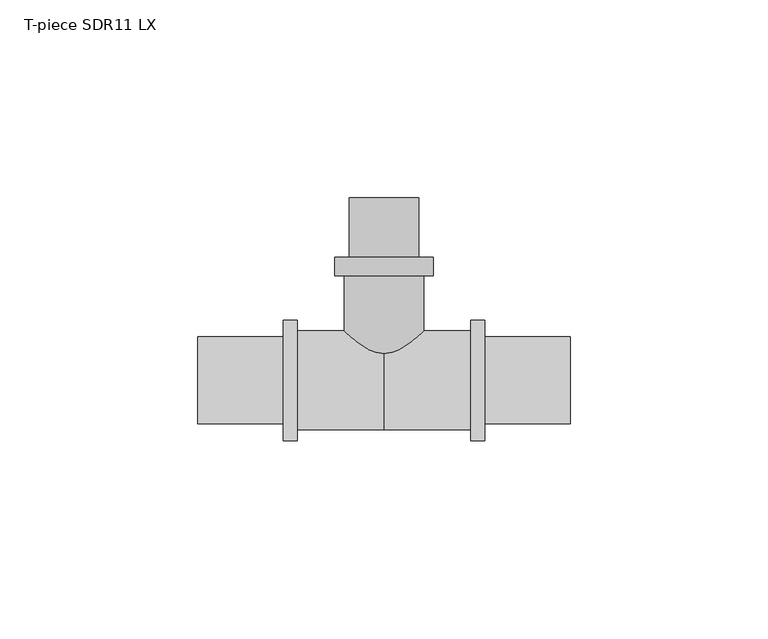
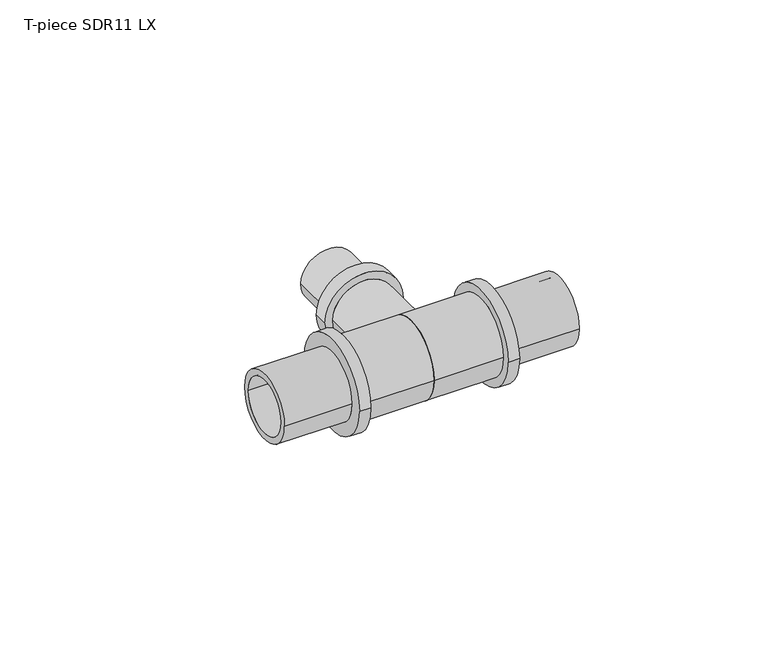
"""IFC4 building model written with IfcOpenShell, lengths in millimetres: pipe fitting geometry, T-piece SDR11 LX : T-piece LX SDR11 LX."""

from ifc_helpers import new_model, si_unit, point, frame, origin, place, context, project, spatial, polyline, circle_curve, ellipse_curve, trimmed, source, transform, mapped, element, save
from ifc_brep_helpers import plane_surface, cylinder_surface, revolved_surface, advanced_brep


def t_piece_sdr11_lx_df0b7dc8(model_context):
    return source(origin(), model_context, "Body", "AdvancedBrep", [
        advanced_brep(
        [(10.0, 1.917756, 0.0), (-10.0, 1.917756, 0.0), (-10.0, 26.4, 0.0), (10.0, 26.4, 0.0), (6.8, 46.1, 0.0), (-6.8, 46.1, 0.0), (-6.8, 0.0, 0.0), (6.8, 0.0, 0.0), (8.8, 31.1, 0.0), (-8.8, 31.1, 0.0), (-8.8, 46.1, 0.0), (8.8, 46.1, 0.0), (12.5, 26.4, 0.0), (-12.5, 26.4, 0.0), (-12.5, 31.1, 0.0), (12.5, 31.1, 0.0)],
        [
            (0, 1, circle_curve(frame((0.0, 1.917756, 0.0), z_axis=(0.0, 1.0, 0.0), x_axis=(-1.0, 0.0, 0.0)), 10.0)),
            (1, 2),
            (2, 3, circle_curve(frame((0.0, 26.4, 0.0), z_axis=(0.0, -1.0, 0.0), x_axis=(-1.0, 0.0, 0.0)), 10.0)),
            (3, 0),
            (4, 5, circle_curve(frame((0.0, 46.1, 0.0), z_axis=(0.0, 1.0, 0.0), x_axis=(-1.0, 0.0, 0.0)), 6.8)),
            (5, 6),
            (6, 7, circle_curve(frame((0.0, 0.0, 0.0), z_axis=(0.0, -1.0, 0.0), x_axis=(-1.0, 0.0, 0.0)), 6.8)),
            (7, 4),
            (8, 9, circle_curve(frame((0.0, 31.1, 0.0), z_axis=(0.0, 1.0, 0.0), x_axis=(-1.0, 0.0, 0.0)), 8.8)),
            (9, 10),
            (10, 11, circle_curve(frame((0.0, 46.1, 0.0), z_axis=(0.0, -1.0, 0.0), x_axis=(-1.0, 0.0, 0.0)), 8.8)),
            (11, 8),
            (12, 13, circle_curve(frame((0.0, 26.4, 0.0), z_axis=(0.0, 1.0, 0.0), x_axis=(-1.0, 0.0, 0.0)), 12.5)),
            (13, 14),
            (14, 15, circle_curve(frame((0.0, 31.1, 0.0), z_axis=(0.0, -1.0, 0.0), x_axis=(-1.0, 0.0, 0.0)), 12.5)),
            (15, 12),
            (12, 13, circle_curve(frame((0.0, 26.4, 0.0), z_axis=(0.0, -1.0, 0.0), x_axis=(1.0, 0.0, 0.0)), 12.5)),
            (2, 3, circle_curve(frame((0.0, 26.4, 0.0), z_axis=(0.0, 1.0, 0.0), x_axis=(1.0, 0.0, 0.0)), 10.0)),
            (1, 0, circle_curve(frame((0.0, 1.917756, 0.0), z_axis=(0.0, 1.0, 0.0), x_axis=(1.0, 0.0, 0.0)), 10.0)),
            (5, 4, circle_curve(frame((0.0, 46.1, 0.0), z_axis=(0.0, 1.0, 0.0), x_axis=(1.0, 0.0, 0.0)), 6.8)),
            (7, 6, circle_curve(frame((0.0, 0.0, 0.0), z_axis=(0.0, -1.0, 0.0), x_axis=(1.0, 0.0, 0.0)), 6.8)),
            (10, 11, circle_curve(frame((0.0, 46.1, 0.0), z_axis=(0.0, 1.0, 0.0), x_axis=(1.0, 0.0, 0.0)), 8.8)),
            (9, 8, circle_curve(frame((0.0, 31.1, 0.0), z_axis=(0.0, 1.0, 0.0), x_axis=(1.0, 0.0, 0.0)), 8.8)),
            (14, 15, circle_curve(frame((0.0, 31.1, 0.0), z_axis=(0.0, 1.0, 0.0), x_axis=(1.0, 0.0, 0.0)), 12.5)),
            (6, 1, circle_curve(frame((-2.0462802, 11.5608022, 0.0), z_axis=(0.0, 0.0, -1.0), x_axis=(0.0, -1.0, 0.0)), 12.5)),
            (0, 7, circle_curve(frame((2.0462802, 11.5608022, 0.0), z_axis=(0.0, 0.0, -1.0), x_axis=(0.0, -1.0, 0.0)), 12.5)),
        ],
        [
            cylinder_surface(frame((0.0, 0.0, 0.0), z_axis=(0.0, -1.0, 0.0), x_axis=(-1.0, 0.0, 0.0)), 10.0),
            revolved_surface(polyline([(-6.8, 0.0, 0.0), (-6.8, 46.1, 0.0)]), (0.0, 0.0, 0.0), (0.0, -1.0, 0.0)),
            cylinder_surface(frame((0.0, 0.0, 0.0), z_axis=(0.0, -1.0, 0.0), x_axis=(-1.0, 0.0, 0.0)), 8.8),
            cylinder_surface(frame((0.0, 0.0, 0.0), z_axis=(0.0, -1.0, 0.0), x_axis=(-1.0, 0.0, 0.0)), 12.5),
            plane_surface(frame((0.0, 26.4, 0.0), z_axis=(0.0, -1.0, 0.0), x_axis=(1.0, 0.0, 0.0))),
            cylinder_surface(frame((0.0, 0.0, 0.0), z_axis=(0.0, -1.0, 0.0), x_axis=(1.0, 0.0, 0.0)), 10.0),
            revolved_surface(polyline([(6.8, 0.0, 0.0), (6.8, 46.1, 0.0)]), (0.0, 0.0, 0.0), (0.0, -1.0, 0.0)),
            plane_surface(frame((0.0, 46.1, 0.0), z_axis=(0.0, 1.0, 0.0), x_axis=(1.0, 0.0, 0.0))),
            cylinder_surface(frame((0.0, 0.0, 0.0), z_axis=(0.0, -1.0, 0.0), x_axis=(1.0, 0.0, 0.0)), 8.8),
            plane_surface(frame((0.0, 31.1, 0.0), z_axis=(0.0, 1.0, 0.0), x_axis=(1.0, 0.0, 0.0))),
            cylinder_surface(frame((0.0, 0.0, 0.0), z_axis=(0.0, -1.0, 0.0), x_axis=(1.0, 0.0, 0.0)), 12.5),
            revolved_surface(trimmed(ellipse_curve(frame((-2.0462802, 11.5608022, 0.0), z_axis=(0.0, 0.0, 1.0), x_axis=(0.0, -1.0, 0.0)), 12.5, 12.5), [point((-10.0, 1.917756, 0.0))], [point((-6.8, 0.0, 0.0))], True, "CARTESIAN"), (0.0, 0.0, 0.0), (0.0, -1.0, 0.0)),
            revolved_surface(trimmed(ellipse_curve(frame((2.0462802, 11.5608022, 0.0), z_axis=(0.0, 0.0, -1.0), x_axis=(0.0, -1.0, 0.0)), 12.5, 12.5), [point((10.0, 1.917756, 0.0))], [point((6.8, 0.0, 0.0))], True, "CARTESIAN"), (0.0, 0.0, 0.0), (0.0, -1.0, 0.0)),
        ],
        [
            (0, [[1, 2, 3, 4]]),
            (1, [[5, 6, 7, 8]]),
            (2, [[9, 10, 11, 12]]),
            (3, [[13, 14, 15, 16]]),
            (4, [[17, -13], [18, -3]]),
            (5, [[19, -4, -18, -2]]),
            (6, [[20, -8, 21, -6]]),
            (7, [[22, -11], [-20, -5]]),
            (8, [[23, -12, -22, -10]]),
            (9, [[24, -15], [-23, -9]]),
            (10, [[-17, -16, -24, -14]]),
            (11, [[-7, 25, -1, 26]]),
            (12, [[-21, -26, -19, -25]]),
        ],
    ),
        advanced_brep(
        [(21.9, 12.5, 0.0), (21.9, -12.5, 0.0), (0.0, -12.5, 0.0), (0.0, 12.5, 0.0), (0.0, 8.9, 0.0), (0.0, -8.9, 0.0), (47.0, -8.9, 0.0), (47.0, 8.9, 0.0), (47.0, 11.0, 0.0), (47.0, -11.0, 0.0), (25.5, -11.0, 0.0), (25.5, 11.0, 0.0), (25.5, 15.25, 0.0), (25.5, -15.25, 0.0), (21.9, -15.25, 0.0), (21.9, 15.25, 0.0)],
        [
            (0, 1, circle_curve(frame((21.9, 0.0, 0.0), z_axis=(-1.0, 0.0, 0.0), x_axis=(0.0, -1.0, 0.0)), 12.5)),
            (1, 2),
            (2, 3, circle_curve(frame((0.0, 0.0, 0.0), z_axis=(1.0, 0.0, 0.0), x_axis=(0.0, -1.0, 0.0)), 12.5)),
            (3, 0),
            (4, 5, circle_curve(frame((0.0, 0.0, 0.0), z_axis=(-1.0, 0.0, 0.0), x_axis=(0.0, -1.0, 0.0)), 8.9)),
            (5, 6),
            (6, 7, circle_curve(frame((47.0, 0.0, 0.0), z_axis=(1.0, 0.0, 0.0), x_axis=(0.0, -1.0, 0.0)), 8.9)),
            (7, 4),
            (8, 9, circle_curve(frame((47.0, 0.0, 0.0), z_axis=(-1.0, 0.0, 0.0), x_axis=(0.0, -1.0, 0.0)), 11.0)),
            (9, 10),
            (10, 11, circle_curve(frame((25.5, 0.0, 0.0), z_axis=(1.0, 0.0, 0.0), x_axis=(0.0, -1.0, 0.0)), 11.0)),
            (11, 8),
            (12, 13, circle_curve(frame((25.5, 0.0, 0.0), z_axis=(-1.0, 0.0, 0.0), x_axis=(0.0, -1.0, 0.0)), 15.25)),
            (13, 14),
            (14, 15, circle_curve(frame((21.9, 0.0, 0.0), z_axis=(1.0, 0.0, 0.0), x_axis=(0.0, -1.0, 0.0)), 15.25)),
            (15, 12),
            (14, 15, circle_curve(frame((21.9, 0.0, 0.0), z_axis=(-1.0, 0.0, 0.0), x_axis=(0.0, 1.0, 0.0)), 15.25)),
            (0, 1, circle_curve(frame((21.9, 0.0, 0.0), z_axis=(1.0, 0.0, 0.0), x_axis=(0.0, 1.0, 0.0)), 12.5)),
            (3, 2, circle_curve(frame((0.0, 0.0, 0.0), z_axis=(1.0, 0.0, 0.0), x_axis=(0.0, 1.0, 0.0)), 12.5)),
            (4, 5, circle_curve(frame((0.0, 0.0, 0.0), z_axis=(1.0, 0.0, 0.0), x_axis=(0.0, 1.0, 0.0)), 8.9)),
            (7, 6, circle_curve(frame((47.0, 0.0, 0.0), z_axis=(1.0, 0.0, 0.0), x_axis=(0.0, 1.0, 0.0)), 8.9)),
            (8, 9, circle_curve(frame((47.0, 0.0, 0.0), z_axis=(1.0, 0.0, 0.0), x_axis=(0.0, 1.0, 0.0)), 11.0)),
            (11, 10, circle_curve(frame((25.5, 0.0, 0.0), z_axis=(1.0, 0.0, 0.0), x_axis=(0.0, 1.0, 0.0)), 11.0)),
            (12, 13, circle_curve(frame((25.5, 0.0, 0.0), z_axis=(1.0, 0.0, 0.0), x_axis=(0.0, 1.0, 0.0)), 15.25)),
        ],
        [
            cylinder_surface(frame((0.0, 0.0, 0.0), z_axis=(1.0, 0.0, 0.0), x_axis=(0.0, -1.0, 0.0)), 12.5),
            revolved_surface(polyline([(47.0, -8.9, 0.0), (0.0, -8.9, 0.0)]), (0.0, 0.0, 0.0), (1.0, 0.0, 0.0)),
            cylinder_surface(frame((0.0, 0.0, 0.0), z_axis=(1.0, 0.0, 0.0), x_axis=(0.0, -1.0, 0.0)), 11.0),
            cylinder_surface(frame((0.0, 0.0, 0.0), z_axis=(1.0, 0.0, 0.0), x_axis=(0.0, -1.0, 0.0)), 15.25),
            plane_surface(frame((21.9, 0.0, 0.0), z_axis=(-1.0, 0.0, 0.0), x_axis=(0.0, 1.0, 0.0))),
            cylinder_surface(frame((0.0, 0.0, 0.0), z_axis=(1.0, 0.0, 0.0), x_axis=(0.0, 1.0, 0.0)), 12.5),
            plane_surface(frame((0.0, 0.0, 0.0), z_axis=(-1.0, 0.0, 0.0), x_axis=(0.0, 1.0, 0.0))),
            revolved_surface(polyline([(47.0, 8.9, 0.0), (0.0, 8.9, 0.0)]), (0.0, 0.0, 0.0), (1.0, 0.0, 0.0)),
            plane_surface(frame((47.0, 0.0, 0.0), z_axis=(1.0, 0.0, 0.0), x_axis=(0.0, 1.0, 0.0))),
            cylinder_surface(frame((0.0, 0.0, 0.0), z_axis=(1.0, 0.0, 0.0), x_axis=(0.0, 1.0, 0.0)), 11.0),
            plane_surface(frame((25.5, 0.0, 0.0), z_axis=(1.0, 0.0, 0.0), x_axis=(0.0, 1.0, 0.0))),
            cylinder_surface(frame((0.0, 0.0, 0.0), z_axis=(1.0, 0.0, 0.0), x_axis=(0.0, 1.0, 0.0)), 15.25),
        ],
        [
            (0, [[1, 2, 3, 4]]),
            (1, [[5, 6, 7, 8]]),
            (2, [[9, 10, 11, 12]]),
            (3, [[13, 14, 15, 16]]),
            (4, [[17, -15], [18, -1]]),
            (5, [[-18, -4, 19, -2]]),
            (6, [[-19, -3], [20, -5]]),
            (7, [[-20, -8, 21, -6]]),
            (8, [[22, -9], [-21, -7]]),
            (9, [[-22, -12, 23, -10]]),
            (10, [[24, -13], [-23, -11]]),
            (11, [[-24, -16, -17, -14]]),
        ],
    ),
        advanced_brep(
        [(0.0, 12.5, 0.0), (0.0, -12.5, 0.0), (-21.9, -12.5, 0.0), (-21.9, 12.5, 0.0), (-47.0, 8.9, 0.0), (-47.0, -8.9, 0.0), (0.0, -8.9, 0.0), (0.0, 8.9, 0.0), (-25.5, 11.0, 0.0), (-25.5, -11.0, 0.0), (-47.0, -11.0, 0.0), (-47.0, 11.0, 0.0), (-21.9, 15.25, 0.0), (-21.9, -15.25, 0.0), (-25.5, -15.25, 0.0), (-25.5, 15.25, 0.0)],
        [
            (0, 1, circle_curve(frame((0.0, 0.0, 0.0), z_axis=(-1.0, 0.0, 0.0), x_axis=(0.0, -1.0, 0.0)), 12.5)),
            (1, 2),
            (2, 3, circle_curve(frame((-21.9, 0.0, 0.0), z_axis=(1.0, 0.0, 0.0), x_axis=(0.0, -1.0, 0.0)), 12.5)),
            (3, 0),
            (4, 5, circle_curve(frame((-47.0, 0.0, 0.0), z_axis=(-1.0, 0.0, 0.0), x_axis=(0.0, -1.0, 0.0)), 8.9)),
            (5, 6),
            (6, 7, circle_curve(frame((0.0, 0.0, 0.0), z_axis=(1.0, 0.0, 0.0), x_axis=(0.0, -1.0, 0.0)), 8.9)),
            (7, 4),
            (8, 9, circle_curve(frame((-25.5, 0.0, 0.0), z_axis=(-1.0, 0.0, 0.0), x_axis=(0.0, -1.0, 0.0)), 11.0)),
            (9, 10),
            (10, 11, circle_curve(frame((-47.0, 0.0, 0.0), z_axis=(1.0, 0.0, 0.0), x_axis=(0.0, -1.0, 0.0)), 11.0)),
            (11, 8),
            (12, 13, circle_curve(frame((-21.9, 0.0, 0.0), z_axis=(-1.0, 0.0, 0.0), x_axis=(0.0, -1.0, 0.0)), 15.25)),
            (13, 14),
            (14, 15, circle_curve(frame((-25.5, 0.0, 0.0), z_axis=(1.0, 0.0, 0.0), x_axis=(0.0, -1.0, 0.0)), 15.25)),
            (15, 12),
            (12, 13, circle_curve(frame((-21.9, 0.0, 0.0), z_axis=(1.0, 0.0, 0.0), x_axis=(0.0, 1.0, 0.0)), 15.25)),
            (2, 3, circle_curve(frame((-21.9, 0.0, 0.0), z_axis=(-1.0, 0.0, 0.0), x_axis=(0.0, 1.0, 0.0)), 12.5)),
            (1, 0, circle_curve(frame((0.0, 0.0, 0.0), z_axis=(-1.0, 0.0, 0.0), x_axis=(0.0, 1.0, 0.0)), 12.5)),
            (6, 7, circle_curve(frame((0.0, 0.0, 0.0), z_axis=(-1.0, 0.0, 0.0), x_axis=(0.0, 1.0, 0.0)), 8.9)),
            (5, 4, circle_curve(frame((-47.0, 0.0, 0.0), z_axis=(-1.0, 0.0, 0.0), x_axis=(0.0, 1.0, 0.0)), 8.9)),
            (10, 11, circle_curve(frame((-47.0, 0.0, 0.0), z_axis=(-1.0, 0.0, 0.0), x_axis=(0.0, 1.0, 0.0)), 11.0)),
            (9, 8, circle_curve(frame((-25.5, 0.0, 0.0), z_axis=(-1.0, 0.0, 0.0), x_axis=(0.0, 1.0, 0.0)), 11.0)),
            (14, 15, circle_curve(frame((-25.5, 0.0, 0.0), z_axis=(-1.0, 0.0, 0.0), x_axis=(0.0, 1.0, 0.0)), 15.25)),
        ],
        [
            cylinder_surface(frame((0.0, 0.0, 0.0), z_axis=(1.0, 0.0, 0.0), x_axis=(0.0, -1.0, 0.0)), 12.5),
            revolved_surface(polyline([(0.0, -8.9, 0.0), (-47.0, -8.9, 0.0)]), (0.0, 0.0, 0.0), (1.0, 0.0, 0.0)),
            cylinder_surface(frame((0.0, 0.0, 0.0), z_axis=(1.0, 0.0, 0.0), x_axis=(0.0, -1.0, 0.0)), 11.0),
            cylinder_surface(frame((0.0, 0.0, 0.0), z_axis=(1.0, 0.0, 0.0), x_axis=(0.0, -1.0, 0.0)), 15.25),
            plane_surface(frame((-21.9, 0.0, 0.0), z_axis=(1.0, 0.0, 0.0), x_axis=(0.0, 1.0, 0.0))),
            cylinder_surface(frame((0.0, 0.0, 0.0), z_axis=(1.0, 0.0, 0.0), x_axis=(0.0, 1.0, 0.0)), 12.5),
            plane_surface(frame((0.0, 0.0, 0.0), z_axis=(1.0, 0.0, 0.0), x_axis=(0.0, 1.0, 0.0))),
            revolved_surface(polyline([(0.0, 8.9, 0.0), (-47.0, 8.9, 0.0)]), (0.0, 0.0, 0.0), (1.0, 0.0, 0.0)),
            plane_surface(frame((-47.0, 0.0, 0.0), z_axis=(-1.0, 0.0, 0.0), x_axis=(0.0, 1.0, 0.0))),
            cylinder_surface(frame((0.0, 0.0, 0.0), z_axis=(1.0, 0.0, 0.0), x_axis=(0.0, 1.0, 0.0)), 11.0),
            plane_surface(frame((-25.5, 0.0, 0.0), z_axis=(-1.0, 0.0, 0.0), x_axis=(0.0, 1.0, 0.0))),
            cylinder_surface(frame((0.0, 0.0, 0.0), z_axis=(1.0, 0.0, 0.0), x_axis=(0.0, 1.0, 0.0)), 15.25),
        ],
        [
            (0, [[1, 2, 3, 4]]),
            (1, [[5, 6, 7, 8]]),
            (2, [[9, 10, 11, 12]]),
            (3, [[13, 14, 15, 16]]),
            (4, [[17, -13], [18, -3]]),
            (5, [[19, -4, -18, -2]]),
            (6, [[-19, -1], [20, -7]]),
            (7, [[21, -8, -20, -6]]),
            (8, [[22, -11], [-21, -5]]),
            (9, [[23, -12, -22, -10]]),
            (10, [[24, -15], [-23, -9]]),
            (11, [[-17, -16, -24, -14]]),
        ],
    ),
    ])


if __name__ == "__main__":
    model = new_model("IFC4")
    model_context = context("Model", 3, world=origin())
    ifc_project = project(units=[si_unit("LENGTHUNIT", "METRE", prefix="MILLI")], contexts=[model_context])
    site = spatial("IfcSite", under=ifc_project)
    building = spatial("IfcBuilding", under=site)
    placement = place(None, origin())
    t_piece_sdr11_lx_shape = t_piece_sdr11_lx_df0b7dc8(model_context)
    element("IfcPipeFitting", 1, ObjectType="T-piece SDR11 LX : T-piece LX SDR11 LX", at=placement, inside=building, context=model_context, shape_type="MappedRepresentation", body=[
        mapped(t_piece_sdr11_lx_shape, transform((0.0, 0.0, 0.0), x_axis=(1.0, 0.0, 0.0), y_axis=(0.0, 1.0, 0.0), z_axis=(0.0, 0.0, 1.0))),
    ])
    save(model, "model.ifc")
